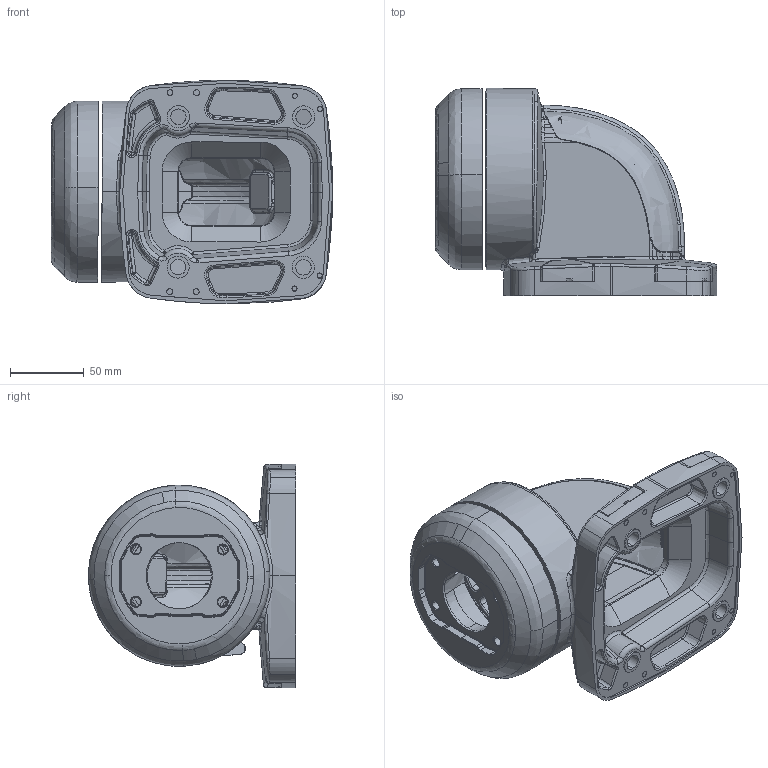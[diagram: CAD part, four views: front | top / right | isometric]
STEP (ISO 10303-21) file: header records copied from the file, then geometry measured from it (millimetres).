
FILE_DESCRIPTION (( 'STEP AP203' ), '1' );
FILE_NAME ('TP.060.0674.STEP', '2026-09-30T08:53:25', ( '' ), ( '' ), 'SwSTEP 2.0', 'SolidWorks 2015', '' );
FILE_SCHEMA (( 'CONFIG_CONTROL_DESIGN' ));
Length unit declared in the file: millimetre
Products named in the file (11): TP.060.Serrated Washer; TP.060.800; TP.060.800(2); TP.060.800(1); kapak vida; TP.060.0674; TP.060.Kapak; TP.060.800(3); TP.060.800(4); TP.060.Disk
Assembly tree (11 placements, depth 3):
  TP.060.0674
    TP.060.800
      TP.060.800(1)
      TP.060.800
      TP.060.800(2)
      TP.060.800(3)
      TP.060.800(4)
      TP.060.Kapak
    TP.060.Disk
    TP.060.Serrated Washer
    kapak vida  x2
Bounding box: 190.84 x 140.79 x 151.58 mm (x, y, z)
Volume: 675891.6 mm3; surface area: 214113.9 mm2
Topology: 10 solids, 18 shells, 3525 faces, 8583 edges, 5093 vertices
Faces by surface type: bspline 2056, cylinder 499, plane 390, torus 294, cone 198, sphere 88
Entity records: 225528 total; most frequent: CARTESIAN_POINT 159542, ORIENTED_EDGE 16958, EDGE_CURVE 8479, DIRECTION 7193, B_SPLINE_CURVE_WITH_KNOTS 5438, VERTEX_POINT 5062, EDGE_LOOP 3597, ADVANCED_FACE 3496
